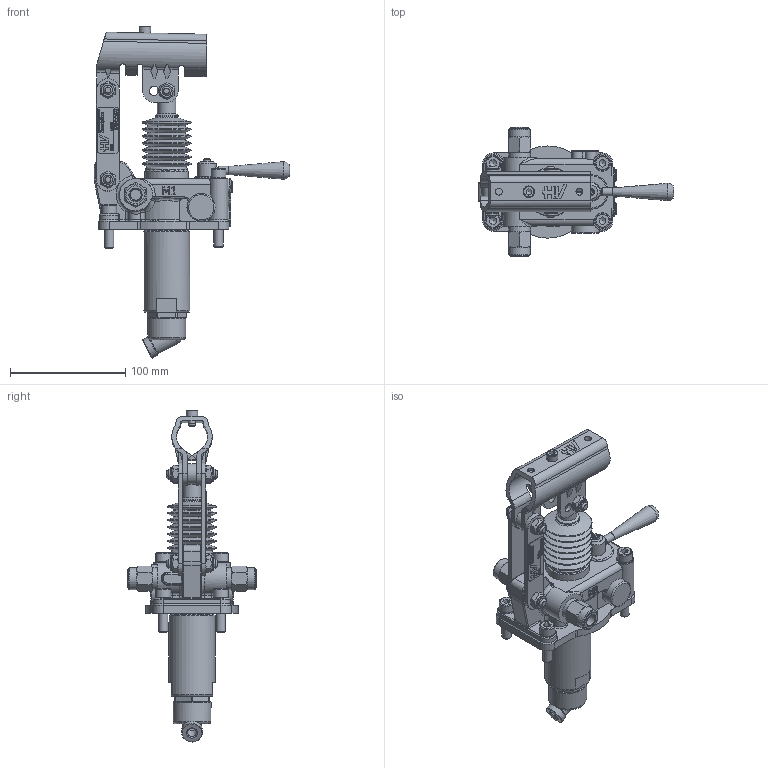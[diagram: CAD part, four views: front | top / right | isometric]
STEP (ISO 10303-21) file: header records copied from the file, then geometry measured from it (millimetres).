
FILE_DESCRIPTION((''),'2;1');
FILE_NAME('G:\HV_HYDRAULIC\AZIENDA_HV_HYDRAULIC\ARCHIVIO_DISEGNI\5_PRODOTTI_FINITI\1_POMPE_MANUALI\6062_PMDVB_45\6062.0301_PMDVB_45_ca-s_(HV)\6062.0301.stp','2024-03-07T16:08:24',('christian.scardovi'),(''),'Autodesk Inventor 2013','Autodesk Inventor 2013','');
FILE_SCHEMA(('AUTOMOTIVE_DESIGN { 1 0 10303 214 1 1 1 1 }'));
Length unit declared in the file: millimetre
Products named in the file (1): 6062.0301
Bounding box: 170 x 112 x 288.31 mm (x, y, z)
Surface area: 136826.5 mm2
Topology: 2 solids, 3 shells, 1686 faces, 4293 edges, 2718 vertices
Faces by surface type: plane 801, cylinder 379, cone 194, bspline 184, torus 115, sphere 13
Full cylindrical faces by diameter (mm): 1.2 x4, 3 x6, 4 x4, 4.917 x13, 5 x12, 6 x8, 6.5 x3, 6.917 x2, 7 x3, 8 x15, 9 x3, 9.2 x1, 10 x13, 10.376 x1, 10.5 x2, 10.917 x2, 11.05 x6, 11.445 x2, 12 x7, 13 x4, 13.2 x1, 14 x4, 14.95 x2, 15.5 x2, 15.9 x2, 16 x5, 18 x3, 19 x4, 20 x1, 21.6 x1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
Entity records: 52675 total; most frequent: CARTESIAN_POINT 14032, ORIENTED_EDGE 7606, DIRECTION 7130, EDGE_CURVE 3803, AXIS2_PLACEMENT_3D 2580, VERTEX_POINT 2562, EDGE_LOOP 2166, VECTOR 1970
